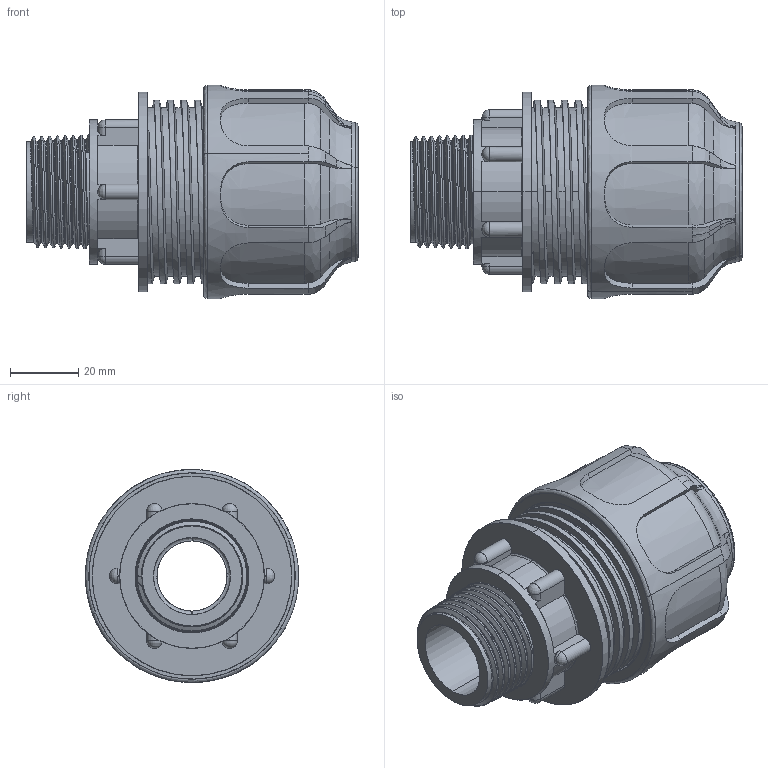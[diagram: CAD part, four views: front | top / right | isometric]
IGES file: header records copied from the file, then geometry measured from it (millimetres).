
Start section: SolidWorks IGES file using analytic representation for surfaces
Global section: file name: P:\DisegniUfficioTecnico\Articoli\ARTICOLI_3D\DISEGNI_STEP_IGS_SITO\02004\02004_IGS\02004.0725.IGS; native system: SolidWorks 2011; preprocessor: SolidWorks 2011; author: giacomo; date: 170522.160116; units: millimetre
Bounding box: 97.02 x 62.3 x 62.3 mm (x, y, z)
Surface area: 60669.7 mm2 (no closed solid volume)
Topology: 0 solids, 0 shells, 444 faces, 9894 edges, 9882 vertices
Faces by surface type: bspline 253, revolution 191
